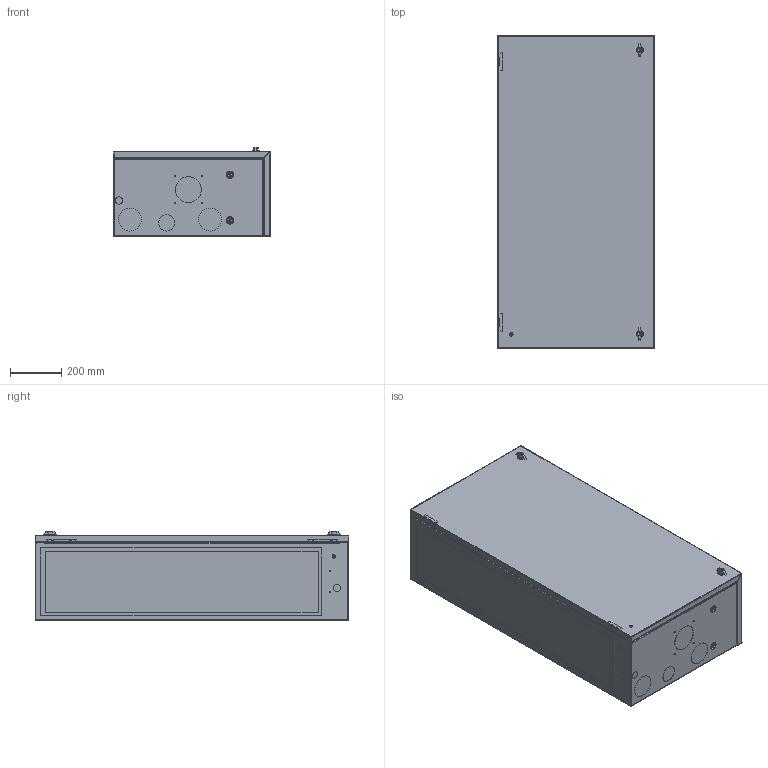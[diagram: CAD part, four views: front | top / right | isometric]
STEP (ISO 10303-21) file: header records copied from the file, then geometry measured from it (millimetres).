
FILE_DESCRIPTION (( 'STEP AP203' ), '1' );
FILE_NAME ('dbl482412g.STEP', '2008-06-18T19:25:00', ( '' ), ( '' ), 'SwSTEP 2.0', 'SolidWorks 2007', '' );
FILE_SCHEMA (( 'CONFIG_CONTROL_DESIGN' ));
Products named in the file (20): 60127214_proline_hng_Assy_LH Bottom mt pull pin up; 87790201_hinge_body_proline; 87931527_87931527; 87931368_SLEEVE; BrktEquipMtgLeft6U_87784816; BrktEquipMtgRight6U_87785256; dbl482412g; WmtBodyLBox_48x24x12; Body_LBox_48x24x12; RackAngleLBox; SupportBrktLBox_48in; WmtDoorLBox_48x24x12; DoorLBox_48x24x12; hinge_dr_proline; 60100041_60100041; Perf_43X10.37_87787071; assy_latch; knob_wing_emka; latch_body; cam
Assembly tree (25 placements, depth 4):
  dbl482412g
    WmtBodyLBox_48x24x12
      60100041_60100041
        87931527_87931527
        87931368_SLEEVE
      Perf_43X10.37_87787071
      Body_LBox_48x24x12
    RackAngleLBox  x2
    SupportBrktLBox_48in
    BrktEquipMtgLeft6U_87784816
    WmtDoorLBox_48x24x12
      assy_latch  x2
        latch_body
        knob_wing_emka
        cam
      DoorLBox_48x24x12
      hinge_dr_proline  x2
      60100041_60100041
        87931527_87931527
        87931368_SLEEVE
      Perf_43X10.37_87787071
    60127214_proline_hng_Assy_LH Bottom mt pull pin up  x2
      87790201_hinge_body_proline
    BrktEquipMtgRight6U_87785256
Bounding box: 611.46 x 1219.54 x 348.42 mm (x, y, z)
Volume: 5385393 mm3; surface area: 6346048.9 mm2
Topology: 27 solids, 29 shells, 2184 faces, 5483 edges, 3456 vertices
Faces by surface type: plane 1094, cylinder 770, cone 150, torus 84, bspline 78, sphere 8
Entity records: 57105 total; most frequent: CARTESIAN_POINT 12376, DIRECTION 9079, ORIENTED_EDGE 8562, EDGE_CURVE 4287, AXIS2_PLACEMENT_3D 3301, VERTEX_POINT 2700, VECTOR 2477, LINE 2477
